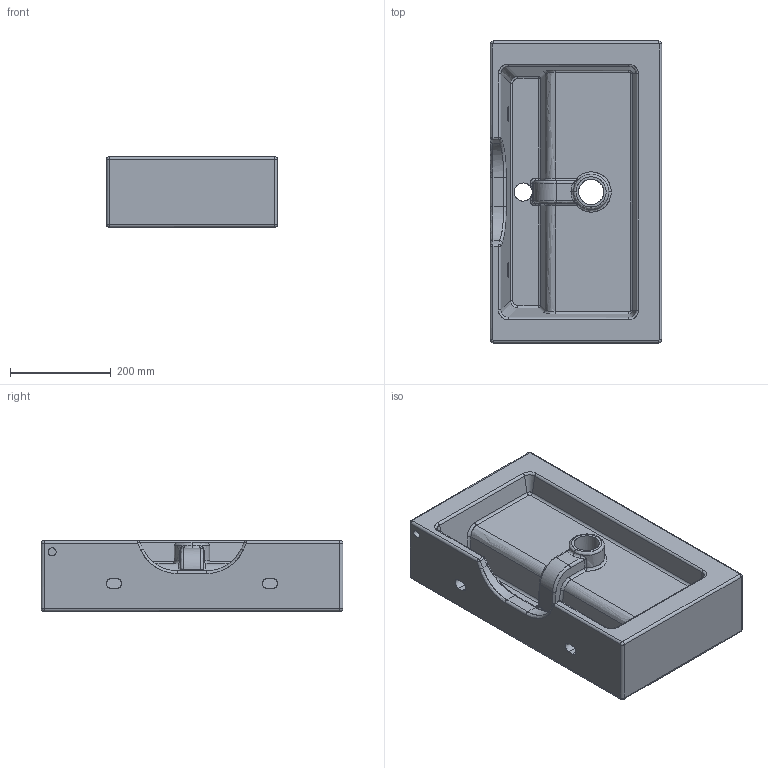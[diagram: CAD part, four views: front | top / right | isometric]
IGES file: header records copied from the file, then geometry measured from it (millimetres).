
Start section: C
Global section: file name: TeoremaR 60x35.igs; native system:  By UGS Corp.; preprocessor: XPlus GENERIC/IGES 3.0; author: Author; organization: Title; date: 20140131.124013; units: millimetre
Bounding box: 340 x 600 x 140 mm (x, y, z)
Surface area: 879550 mm2 (no closed solid volume)
Topology: 0 solids, 0 shells, 181 faces, 864 edges, 850 vertices
Faces by surface type: bspline 181
